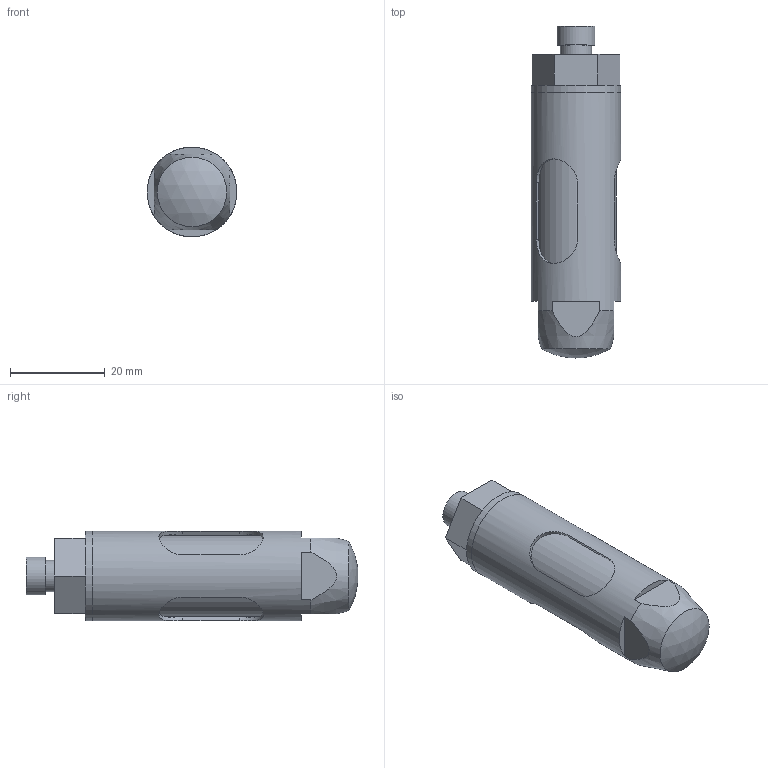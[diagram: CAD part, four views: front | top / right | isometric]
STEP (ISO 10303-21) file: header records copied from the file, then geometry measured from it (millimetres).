
FILE_DESCRIPTION(/* description */ (''),/* implementation_level */ '2;1');
FILE_NAME(/* name */ 'T:\Anwender\Praktikant\Tobias Könemund\Innengreifer\Parametrisch\G-GI019_vereinfacht.stp',/* time_stamp */ '2015-10-30T08:18:44+01:00',/* author */ ('Praktikant'),/* organization */ ('GRIP GmbH'),/* preprocessor_version */ 'ST-DEVELOPER v15.2',/* originating_system */ 'Autodesk Inventor 2014',/* authorisation */ '');
FILE_SCHEMA (('AUTOMOTIVE_DESIGN { 1 0 10303 214 3 1 1 }'));
Length unit declared in the file: millimetre
Products named in the file (3): G-GI019-2.1-1 Dorn_vereinfacht-02; G-GI019-1.1-1 Hülse_vereinfacht-01; Baugruppe_vereinfacht
Bounding box: 18.9 x 69.92 x 18.9 mm (x, y, z)
Volume: 15764.8 mm3; surface area: 8389.3 mm2
Topology: 2 solids, 2 shells, 44 faces, 108 edges, 72 vertices
Faces by surface type: plane 28, cylinder 13, cone 2, sphere 1
Full cylindrical faces by diameter (mm): 5 x1, 6.6 x1, 8 x1, 17 x1, 17.3 x1, 18.9 x2
Entity records: 1450 total; most frequent: CARTESIAN_POINT 419, DIRECTION 196, ORIENTED_EDGE 184, EDGE_CURVE 92, AXIS2_PLACEMENT_3D 71, VERTEX_POINT 66, EDGE_LOOP 64, LINE 54
